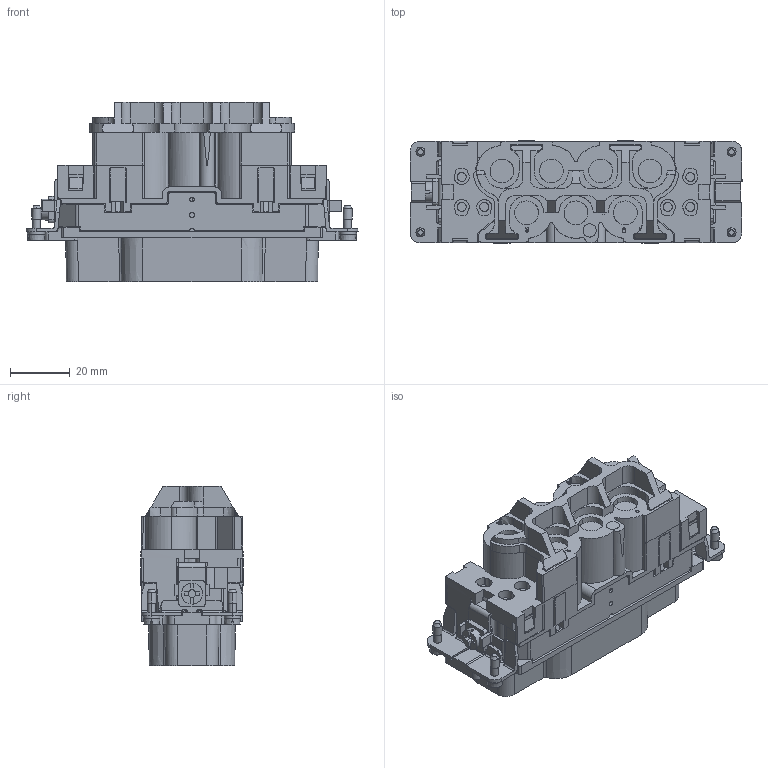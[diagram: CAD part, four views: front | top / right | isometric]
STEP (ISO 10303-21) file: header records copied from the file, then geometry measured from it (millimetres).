
FILE_DESCRIPTION (( 'STEP AP203' ), '1' );
FILE_NAME ('CXF-6-6.STEP', '2017-06-12T15:26:09', ( 'Mencom User' ), ( 'Hewlett-Packard Company' ), 'SwSTEP 2.0', 'SolidWorks 2016', '' );
FILE_SCHEMA (( 'CONFIG_CONTROL_DESIGN' ));
Products named in the file (1): CXF-6-6
Bounding box: 111 x 34.4 x 60 mm (x, y, z)
Volume: 120053.9 mm3; surface area: 39445.7 mm2
Topology: 1 solids, 1 shells, 2330 faces, 7076 edges, 4767 vertices
Faces by surface type: plane 1701, cylinder 485, bspline 98, cone 46
Entity records: 98550 total; most frequent: CARTESIAN_POINT 40024, ORIENTED_EDGE 14136, DIRECTION 9127, EDGE_CURVE 7068, VERTEX_POINT 4767, VECTOR 4433, LINE 4433, B_SPLINE_CURVE_WITH_KNOTS 2509
